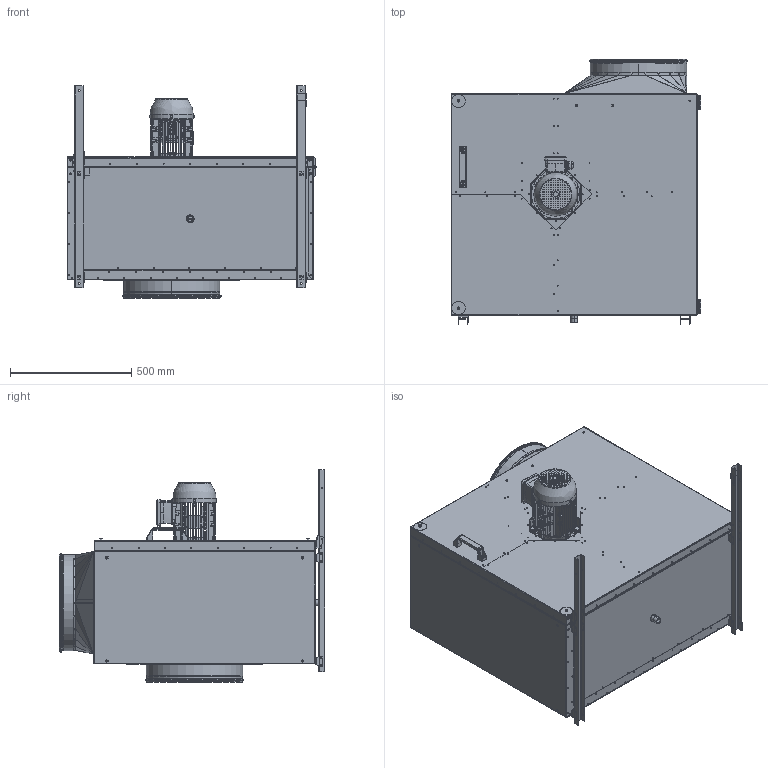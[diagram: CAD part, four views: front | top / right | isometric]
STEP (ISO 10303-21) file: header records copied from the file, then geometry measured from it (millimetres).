
FILE_DESCRIPTION (( 'STEP AP203' ), '1' );
FILE_NAME ('145876-00_MPS500D4F430_step.step', '2018-10-09T11:25:57', ( '' ), ( '' ), 'SwSTEP 2.0', 'SolidWorks 2017', '' );
FILE_SCHEMA (( 'CONFIG_CONTROL_DESIGN' ));
Products named in the file (1): 145876-00_MPS500D4F430_step
Bounding box: 1030.62 x 1097.84 x 876 mm (x, y, z)
Surface area: 14526485.5 mm2 (no closed solid volume)
Topology: 0 solids, 227 shells, 2273 faces, 15589 edges, 13161 vertices
Faces by surface type: plane 1284, cylinder 732, bspline 113, torus 92, cone 52
Entity records: 180234 total; most frequent: CARTESIAN_POINT 65207, DIRECTION 23762, ORIENTED_EDGE 19409, EDGE_CURVE 15584, VERTEX_POINT 13161, LINE 8722, VECTOR 8722, AXIS2_PLACEMENT_3D 7520
